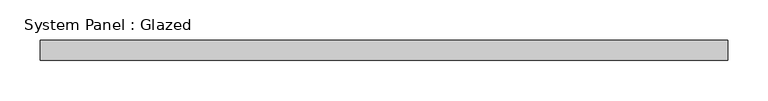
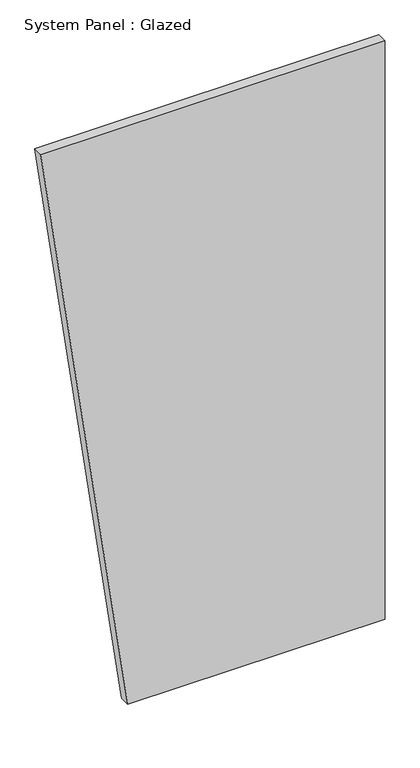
"""IFC4 building model written with IfcOpenShell, lengths in millimetres: plate geometry, System Panel : Glazed."""

from ifc_helpers import new_model, si_unit, frame, origin, place, context, project, spatial, polyline, outline, extrude, source, transform, mapped, element, save


def system_panel_glazed_bc233fa8(model_context):
    return source(origin(), model_context, "Body", "SweptSolid", [
        extrude(outline(polyline([(0.0, -212.362841), (0.0, 429.4081961), (1524.0, 429.4081961), (1524.0, -429.4081961), (0.0, -212.362841)])), frame((0.0, 19.05, 0.0), z_axis=(0.0, 1.0, 0.0), x_axis=(0.0, 0.0, 1.0)), (0.0, 0.0, 1.0), 25.4),
    ])


if __name__ == "__main__":
    model = new_model("IFC4")
    model_context = context("Model", 3, world=origin())
    ifc_project = project(units=[si_unit("LENGTHUNIT", "METRE", prefix="MILLI")], contexts=[model_context])
    site = spatial("IfcSite", under=ifc_project)
    building = spatial("IfcBuilding", under=site)
    placement = place(None, origin())
    system_panel_glazed_shape = system_panel_glazed_bc233fa8(model_context)
    element("IfcPlate", 1, ObjectType="System Panel : Glazed", at=placement, inside=building, context=model_context, shape_type="MappedRepresentation", body=[
        mapped(system_panel_glazed_shape, transform((0.0, 0.0, 0.0), x_axis=(1.0, 0.0, 0.0), y_axis=(0.0, 1.0, 0.0), z_axis=(0.0, 0.0, 1.0))),
    ])
    save(model, "model.ifc")
